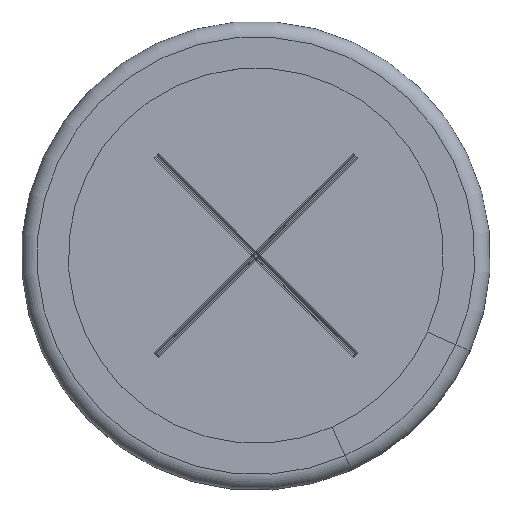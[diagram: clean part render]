
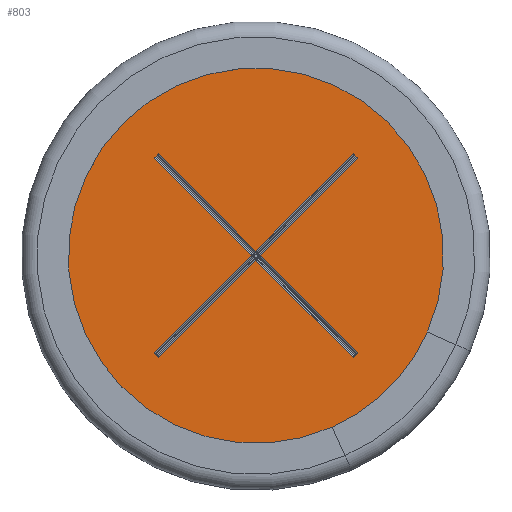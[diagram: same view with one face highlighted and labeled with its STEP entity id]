
A CAD part, top view. The second image highlights one B-rep face of the part: STEP entity #803.
In plain terms, the highlighted planar face has unit normal (0, 0, 1).
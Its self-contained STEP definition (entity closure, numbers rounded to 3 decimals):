
#176=FACE_BOUND('',#1284,.T.);
#177=FACE_BOUND('',#1285,.T.);
#687=PLANE('',#4047);
#803=ADVANCED_FACE('',(#176,#177),#687,.T.);
#1284=EDGE_LOOP('',(#2130));
#1285=EDGE_LOOP('',(#2131,#2132,#2133,#2134,#2135,#2136,#2137,#2138,#2139,
#2140,#2141,#2142));
#1517=LINE('',#5710,#1771);
#1518=LINE('',#5713,#1772);
#1519=LINE('',#5715,#1773);
#1520=LINE('',#5717,#1774);
#1521=LINE('',#5719,#1775);
#1522=LINE('',#5721,#1776);
#1523=LINE('',#5723,#1777);
#1524=LINE('',#5725,#1778);
#1525=LINE('',#5727,#1779);
#1526=LINE('',#5729,#1780);
#1527=LINE('',#5731,#1781);
#1528=LINE('',#5733,#1782);
#1771=VECTOR('',#4590,1.);
#1772=VECTOR('',#4591,1.);
#1773=VECTOR('',#4592,1.);
#1774=VECTOR('',#4593,1.);
#1775=VECTOR('',#4594,1.);
#1776=VECTOR('',#4595,1.);
#1777=VECTOR('',#4596,1.);
#1778=VECTOR('',#4597,1.);
#1779=VECTOR('',#4598,1.);
#1780=VECTOR('',#4599,1.);
#1781=VECTOR('',#4600,1.);
#1782=VECTOR('',#4601,1.);
#2130=ORIENTED_EDGE('',*,*,#3368,.F.);
#2131=ORIENTED_EDGE('',*,*,#3369,.T.);
#2132=ORIENTED_EDGE('',*,*,#3370,.T.);
#2133=ORIENTED_EDGE('',*,*,#3371,.T.);
#2134=ORIENTED_EDGE('',*,*,#3372,.F.);
#2135=ORIENTED_EDGE('',*,*,#3373,.T.);
#2136=ORIENTED_EDGE('',*,*,#3374,.T.);
#2137=ORIENTED_EDGE('',*,*,#3375,.F.);
#2138=ORIENTED_EDGE('',*,*,#3376,.T.);
#2139=ORIENTED_EDGE('',*,*,#3377,.T.);
#2140=ORIENTED_EDGE('',*,*,#3378,.T.);
#2141=ORIENTED_EDGE('',*,*,#3379,.T.);
#2142=ORIENTED_EDGE('',*,*,#3380,.T.);
#3038=VERTEX_POINT('',#5709);
#3039=VERTEX_POINT('',#5711);
#3040=VERTEX_POINT('',#5712);
#3041=VERTEX_POINT('',#5714);
#3042=VERTEX_POINT('',#5716);
#3043=VERTEX_POINT('',#5718);
#3044=VERTEX_POINT('',#5720);
#3045=VERTEX_POINT('',#5722);
#3046=VERTEX_POINT('',#5724);
#3047=VERTEX_POINT('',#5726);
#3048=VERTEX_POINT('',#5728);
#3049=VERTEX_POINT('',#5730);
#3050=VERTEX_POINT('',#5732);
#3368=EDGE_CURVE('',#3038,#3038,#3826,.T.);
#3369=EDGE_CURVE('',#3039,#3040,#1517,.T.);
#3370=EDGE_CURVE('',#3040,#3041,#1518,.T.);
#3371=EDGE_CURVE('',#3041,#3042,#1519,.T.);
#3372=EDGE_CURVE('',#3043,#3042,#1520,.T.);
#3373=EDGE_CURVE('',#3043,#3044,#1521,.T.);
#3374=EDGE_CURVE('',#3044,#3045,#1522,.T.);
#3375=EDGE_CURVE('',#3046,#3045,#1523,.T.);
#3376=EDGE_CURVE('',#3046,#3047,#1524,.T.);
#3377=EDGE_CURVE('',#3047,#3048,#1525,.T.);
#3378=EDGE_CURVE('',#3048,#3049,#1526,.T.);
#3379=EDGE_CURVE('',#3049,#3050,#1527,.T.);
#3380=EDGE_CURVE('',#3050,#3039,#1528,.T.);
#3826=CIRCLE('',#4046,14.);
#4046=AXIS2_PLACEMENT_3D('',#5708,#4588,#4589);
#4047=AXIS2_PLACEMENT_3D('',#5734,#4602,#4603);
#4588=DIRECTION('',(0.,0.,-1.));
#4589=DIRECTION('',(-1.,0.,0.));
#4590=DIRECTION('',(0.707,-0.707,0.));
#4591=DIRECTION('',(-0.707,-0.707,0.));
#4592=DIRECTION('',(0.707,-0.707,0.));
#4593=DIRECTION('',(0.707,0.707,0.));
#4594=DIRECTION('',(-0.707,0.707,0.));
#4595=DIRECTION('',(-0.707,-0.707,0.));
#4596=DIRECTION('',(0.707,-0.707,0.));
#4597=DIRECTION('',(0.707,0.707,0.));
#4598=DIRECTION('',(-0.707,0.707,0.));
#4599=DIRECTION('',(0.707,0.707,0.));
#4600=DIRECTION('',(0.707,-0.707,0.));
#4601=DIRECTION('',(0.707,0.707,0.));
#4602=DIRECTION('',(0.,0.,1.));
#4603=DIRECTION('',(1.,0.,0.));
#5708=CARTESIAN_POINT('',(0.,0.,14.8));
#5709=CARTESIAN_POINT('',(-14.,0.,14.8));
#5710=CARTESIAN_POINT('',(6.258,6.47,14.8));
#5711=CARTESIAN_POINT('',(6.214,6.514,14.8));
#5712=CARTESIAN_POINT('',(6.514,6.214,14.8));
#5713=CARTESIAN_POINT('',(-6.85,-7.15,14.8));
#5714=CARTESIAN_POINT('',(0.3,0.,14.8));
#5715=CARTESIAN_POINT('',(-6.85,7.15,14.8));
#5716=CARTESIAN_POINT('',(6.514,-6.214,14.8));
#5717=CARTESIAN_POINT('',(6.47,-6.258,14.8));
#5718=CARTESIAN_POINT('',(6.214,-6.514,14.8));
#5719=CARTESIAN_POINT('',(-7.15,6.85,14.8));
#5720=CARTESIAN_POINT('',(0.,-0.3,14.8));
#5721=CARTESIAN_POINT('',(-6.85,-7.15,14.8));
#5722=CARTESIAN_POINT('',(-6.214,-6.514,14.8));
#5723=CARTESIAN_POINT('',(-6.47,-6.258,14.8));
#5724=CARTESIAN_POINT('',(-6.514,-6.214,14.8));
#5725=CARTESIAN_POINT('',(-7.15,-6.85,14.8));
#5726=CARTESIAN_POINT('',(-0.3,0.,14.8));
#5727=CARTESIAN_POINT('',(-7.15,6.85,14.8));
#5728=CARTESIAN_POINT('',(-6.514,6.214,14.8));
#5729=CARTESIAN_POINT('',(-6.258,6.47,14.8));
#5730=CARTESIAN_POINT('',(-6.214,6.514,14.8));
#5731=CARTESIAN_POINT('',(-6.85,7.15,14.8));
#5732=CARTESIAN_POINT('',(0.,0.3,14.8));
#5733=CARTESIAN_POINT('',(-7.15,-6.85,14.8));
#5734=CARTESIAN_POINT('',(-14.,0.,14.8));
